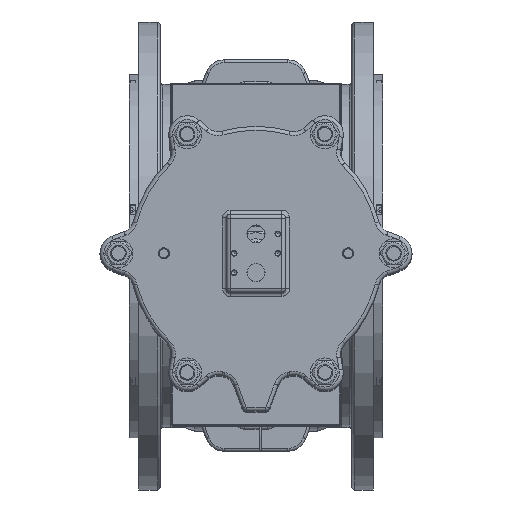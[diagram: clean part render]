
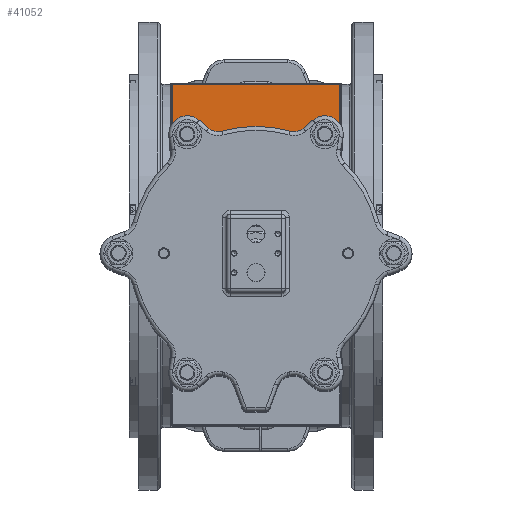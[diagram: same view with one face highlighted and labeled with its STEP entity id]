
A CAD part, top view. The second image highlights one B-rep face of the part: STEP entity #41052.
In plain terms, the highlighted planar face has unit normal (0, 0, 1).
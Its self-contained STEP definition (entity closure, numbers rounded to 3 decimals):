
#3641=LINE('',#67323,#6044);
#3657=LINE('',#67359,#6060);
#3659=LINE('',#67364,#6062);
#3662=LINE('',#67369,#6065);
#3663=LINE('',#67372,#6066);
#3666=LINE('',#67377,#6069);
#3679=LINE('',#67415,#6082);
#3681=LINE('',#67419,#6084);
#3683=LINE('',#67423,#6086);
#3685=LINE('',#67427,#6088);
#3686=LINE('',#67430,#6089);
#3700=LINE('',#67469,#6103);
#3706=LINE('',#67485,#6109);
#6044=VECTOR('',#53337,10.);
#6060=VECTOR('',#53367,10.);
#6062=VECTOR('',#53371,10.);
#6065=VECTOR('',#53376,10.);
#6066=VECTOR('',#53379,10.);
#6069=VECTOR('',#53384,10.);
#6082=VECTOR('',#53427,10.);
#6084=VECTOR('',#53431,1.44);
#6086=VECTOR('',#53435,1.44);
#6088=VECTOR('',#53439,10.);
#6089=VECTOR('',#53442,10.);
#6103=VECTOR('',#53486,10.);
#6109=VECTOR('',#53506,10.);
#7762=PLANE('',#44746);
#9110=FACE_OUTER_BOUND('',#11807,.T.);
#11807=EDGE_LOOP('',(#31768,#31769,#31770,#31771,#31772,#31773,#31774,#31775,
#31776,#31777,#31778,#31779,#31780,#31781));
#14777=CIRCLE('',#44747,11.5);
#18465=VERTEX_POINT('',#67320);
#18466=VERTEX_POINT('',#67322);
#18468=VERTEX_POINT('',#67328);
#18469=VERTEX_POINT('',#67332);
#18480=VERTEX_POINT('',#67361);
#18481=VERTEX_POINT('',#67363);
#18482=VERTEX_POINT('',#67367);
#18483=VERTEX_POINT('',#67371);
#18484=VERTEX_POINT('',#67375);
#18495=VERTEX_POINT('',#67417);
#18496=VERTEX_POINT('',#67421);
#18497=VERTEX_POINT('',#67425);
#18498=VERTEX_POINT('',#67429);
#18511=VERTEX_POINT('',#67483);
#23264=EDGE_CURVE('',#18465,#18466,#3641,.T.);
#23283=EDGE_CURVE('',#18469,#18468,#3657,.T.);
#23285=EDGE_CURVE('',#18480,#18481,#3659,.T.);
#23288=EDGE_CURVE('',#18469,#18482,#3662,.T.);
#23289=EDGE_CURVE('',#18483,#18482,#3663,.T.);
#23292=EDGE_CURVE('',#18480,#18484,#3666,.T.);
#23311=EDGE_CURVE('',#18484,#18483,#3679,.T.);
#23313=EDGE_CURVE('',#18466,#18495,#3681,.T.);
#23315=EDGE_CURVE('',#18496,#18468,#3683,.T.);
#23317=EDGE_CURVE('',#18497,#18496,#3685,.T.);
#23318=EDGE_CURVE('',#18495,#18498,#3686,.T.);
#23338=EDGE_CURVE('',#18498,#18497,#3700,.T.);
#23346=EDGE_CURVE('',#18481,#18511,#3706,.T.);
#23347=EDGE_CURVE('',#18465,#18511,#14777,.T.);
#31768=ORIENTED_EDGE('',*,*,#23347,.T.);
#31769=ORIENTED_EDGE('',*,*,#23346,.F.);
#31770=ORIENTED_EDGE('',*,*,#23285,.F.);
#31771=ORIENTED_EDGE('',*,*,#23292,.T.);
#31772=ORIENTED_EDGE('',*,*,#23311,.T.);
#31773=ORIENTED_EDGE('',*,*,#23289,.T.);
#31774=ORIENTED_EDGE('',*,*,#23288,.F.);
#31775=ORIENTED_EDGE('',*,*,#23283,.T.);
#31776=ORIENTED_EDGE('',*,*,#23315,.F.);
#31777=ORIENTED_EDGE('',*,*,#23317,.F.);
#31778=ORIENTED_EDGE('',*,*,#23338,.F.);
#31779=ORIENTED_EDGE('',*,*,#23318,.F.);
#31780=ORIENTED_EDGE('',*,*,#23313,.F.);
#31781=ORIENTED_EDGE('',*,*,#23264,.F.);
#41052=ADVANCED_FACE('',(#9110),#7762,.T.);
#44746=AXIS2_PLACEMENT_3D('',#67486,#53507,#53508);
#44747=AXIS2_PLACEMENT_3D('',#67487,#53509,#53510);
#53337=DIRECTION('',(-1.,0.,0.));
#53367=DIRECTION('',(-1.,0.,0.));
#53371=DIRECTION('',(0.,-1.,0.));
#53376=DIRECTION('',(0.,-1.,0.));
#53379=DIRECTION('',(-1.,0.,0.));
#53384=DIRECTION('',(1.,0.,0.));
#53427=DIRECTION('',(0.,1.,0.));
#53431=DIRECTION('',(0.,1.,0.));
#53435=DIRECTION('',(0.,1.,0.));
#53439=DIRECTION('',(1.,0.,0.));
#53442=DIRECTION('',(-1.,0.,0.));
#53486=DIRECTION('',(0.,1.,0.));
#53506=DIRECTION('',(-1.,0.,0.));
#53507=DIRECTION('center_axis',(0.,0.,
1.));
#53508=DIRECTION('ref_axis',(-1.,0.,0.));
#53509=DIRECTION('center_axis',(0.,0.,
-1.));
#53510=DIRECTION('ref_axis',(0.,-1.,0.));
#67320=CARTESIAN_POINT('',(-10.782,82.001,861.));
#67322=CARTESIAN_POINT('',(-86.5,82.001,861.));
#67323=CARTESIAN_POINT('',(86.5,82.001,861.));
#67328=CARTESIAN_POINT('',(-86.5,175.001,861.));
#67332=CARTESIAN_POINT('',(86.5,175.001,861.));
#67359=CARTESIAN_POINT('',(0.,175.001,861.));
#67361=CARTESIAN_POINT('',(86.5,107.001,861.));
#67363=CARTESIAN_POINT('',(86.5,82.001,861.));
#67364=CARTESIAN_POINT('',(86.5,175.001,861.));
#67367=CARTESIAN_POINT('',(86.5,117.001,861.));
#67369=CARTESIAN_POINT('',(86.5,175.001,861.));
#67371=CARTESIAN_POINT('',(87.7,117.001,861.));
#67372=CARTESIAN_POINT('',(87.7,117.001,861.));
#67375=CARTESIAN_POINT('',(87.7,107.001,861.));
#67377=CARTESIAN_POINT('',(86.5,107.001,861.));
#67415=CARTESIAN_POINT('',(87.7,107.001,861.));
#67417=CARTESIAN_POINT('',(-86.5,107.001,861.));
#67419=CARTESIAN_POINT('',(-86.5,179.525,861.));
#67421=CARTESIAN_POINT('',(-86.5,117.001,861.));
#67423=CARTESIAN_POINT('',(-86.5,179.525,861.));
#67425=CARTESIAN_POINT('',(-87.7,117.001,861.));
#67427=CARTESIAN_POINT('',(-87.7,117.001,861.));
#67429=CARTESIAN_POINT('',(-87.7,107.001,861.));
#67430=CARTESIAN_POINT('',(-86.5,107.001,861.));
#67469=CARTESIAN_POINT('',(-87.7,107.001,861.));
#67483=CARTESIAN_POINT('',(10.782,82.001,861.));
#67485=CARTESIAN_POINT('',(86.5,82.001,861.));
#67486=CARTESIAN_POINT('Origin',(0.,129.632,
861.));
#67487=CARTESIAN_POINT('Origin',(0.,78.001,
861.));
